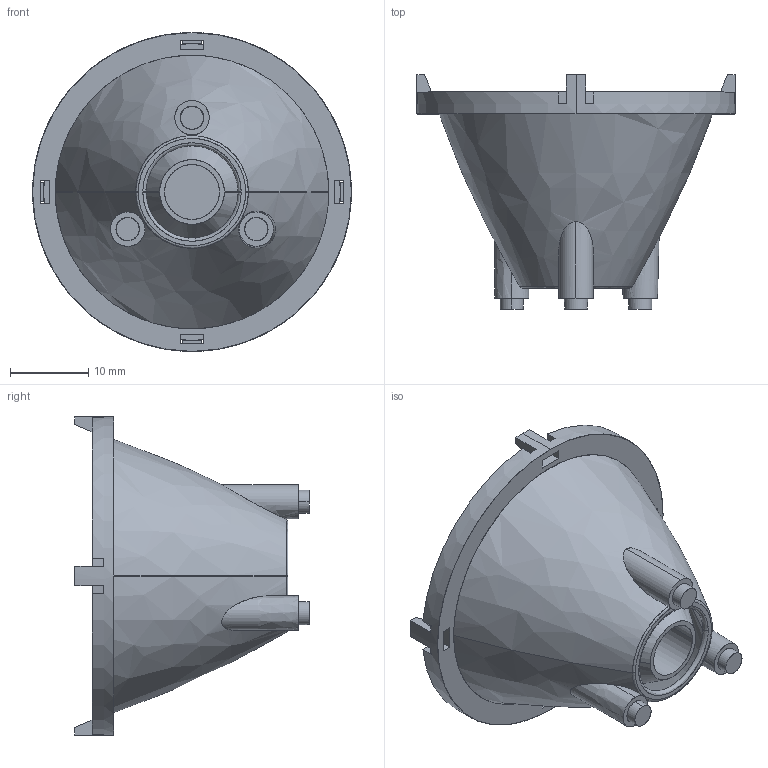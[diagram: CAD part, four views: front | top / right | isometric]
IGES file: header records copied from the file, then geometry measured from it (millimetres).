
Start section: SolidWorks IGES file using analytic representation for surfaces
Global section: file name: C:\P-Gold\Projects\Lenses\LuxPar_Lenses\02-Color_Mixing-1\2400-0010\Application\Color-Mix(1)-Lens-LensH-Apps_RevA.IGS; native system: SolidWorks 2009; preprocessor: SolidWorks 2009; author: dadebiyi; date: 110110.151901; units: millimetre
Bounding box: 40.8 x 29.99 x 40.8 mm (x, y, z)
Surface area: 9581.4 mm2 (no closed solid volume)
Topology: 0 solids, 0 shells, 93 faces, 1886 edges, 2069 vertices
Faces by surface type: bspline 71, revolution 22
